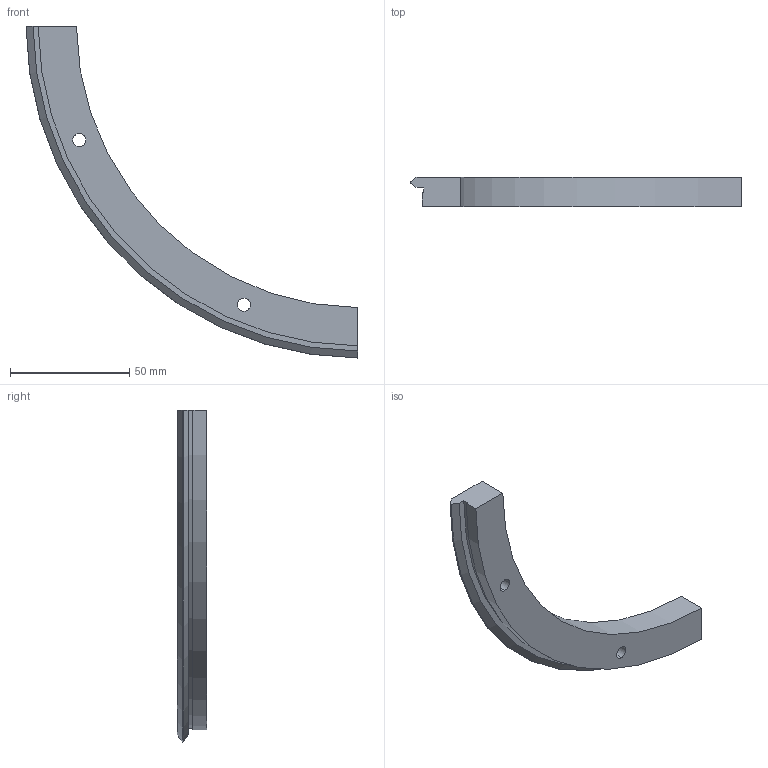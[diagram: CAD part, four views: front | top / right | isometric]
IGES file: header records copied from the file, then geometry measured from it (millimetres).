
Start section: 3D InterOp IGES (v. 2020 1.0.1), Spatial Corp. Copyright (c) 1999-2017.
Global section: file name: res_280_r90.igs; native system: Spatial Corp.; preprocessor: 3D InterOp ACIS/IGES; author: TraceParts; organization: TraceParts S.A.; date: 20220624.100039; units: millimetre
Bounding box: 139.11 x 12.25 x 139.11 mm (x, y, z)
Surface area: 13897.4 mm2 (no closed solid volume)
Topology: 0 solids, 0 shells, 23 faces, 114 edges, 114 vertices
Faces by surface type: revolution 15, extrusion 8
